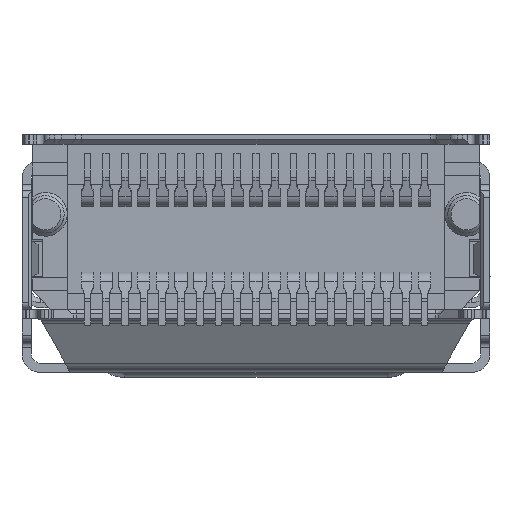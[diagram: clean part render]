
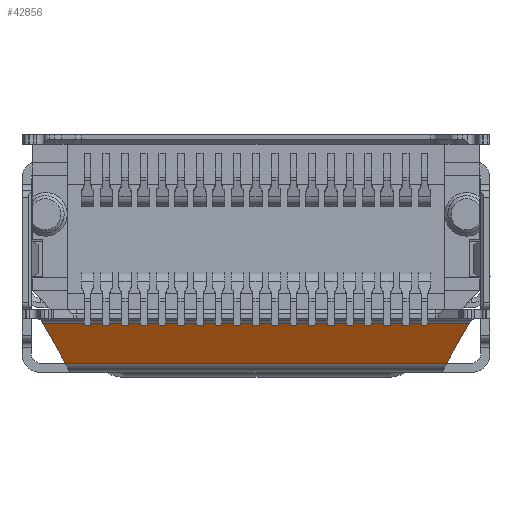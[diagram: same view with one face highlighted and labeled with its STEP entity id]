
A CAD part, front view. The second image highlights one B-rep face of the part: STEP entity #42856.
In plain terms, the highlighted planar face has unit normal (0, -0.866, -0.5).
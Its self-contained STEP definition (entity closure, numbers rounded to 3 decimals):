
#2482=CARTESIAN_POINT('',(-6.108,0.83,
-5.02));
#2484=DIRECTION('',(1.,0.,0.));
#2485=VECTOR('',#2484,12.216);
#2486=CARTESIAN_POINT('',(-6.108,0.83,
-5.02));
#2487=LINE('',#2486,#2485);
#2488=CARTESIAN_POINT('',(6.108,0.83,
-5.02));
#2753=DIRECTION('',(-0.438,-0.449,0.778));
#2754=VECTOR('',#2753,1.644);
#2755=CARTESIAN_POINT('',(-6.108,0.83,
-5.02));
#2756=LINE('',#2755,#2754);
#2757=DIRECTION('',(-0.438,0.449,-0.778));
#2758=VECTOR('',#2757,1.644);
#2759=CARTESIAN_POINT('',(6.829,0.091,
-3.74));
#2760=LINE('',#2759,#2758);
#3821=DIRECTION('',(1.,0.,0.));
#3822=VECTOR('',#3821,13.658);
#3823=CARTESIAN_POINT('',(-6.829,0.091,
-3.74));
#3824=LINE('',#3823,#3822);
#31720=VERTEX_POINT('',#2488);
#31723=VERTEX_POINT('',#2482);
#31860=CARTESIAN_POINT('',(6.829,0.091,
-3.74));
#31861=VERTEX_POINT('',#31860);
#31862=CARTESIAN_POINT('',(-6.829,0.091,
-3.74));
#31863=VERTEX_POINT('',#31862);
#42843=CARTESIAN_POINT('',(0.,0.461,
-4.38));
#42844=DIRECTION('',(0.,0.866,0.5));
#42845=DIRECTION('',(0.,0.5,-0.866));
#42846=AXIS2_PLACEMENT_3D('',#42843,#42844,#42845);
#42847=PLANE('',#42846);
#42848=ORIENTED_EDGE('',*,*,#42386,.F.);
#42850=ORIENTED_EDGE('',*,*,#42849,.T.);
#42852=ORIENTED_EDGE('',*,*,#42851,.T.);
#42853=ORIENTED_EDGE('',*,*,#42835,.T.);
#42854=EDGE_LOOP('',(#42848,#42850,#42852,#42853));
#42855=FACE_OUTER_BOUND('',#42854,.F.);
#42386=EDGE_CURVE('',#31723,#31720,#2487,.T.);
#42835=EDGE_CURVE('',#31861,#31720,#2760,.T.);
#42849=EDGE_CURVE('',#31723,#31863,#2756,.T.);
#42851=EDGE_CURVE('',#31863,#31861,#3824,.T.);
#42856=ADVANCED_FACE('',(#42855),#42847,.F.);
